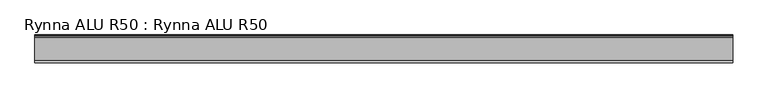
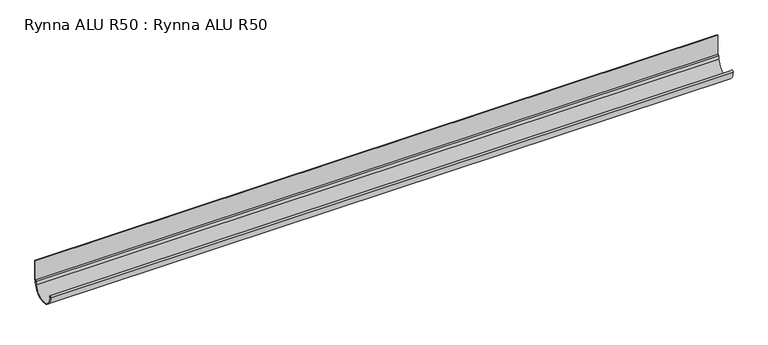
"""IFC4 building model written with IfcOpenShell, lengths in millimetres: proxy geometry, Rynna ALU R50 : Rynna ALU R50."""

from ifc_helpers import new_model, si_unit, point, frame, frame_2d, origin, place, context, project, spatial, polyline, circle_curve, trimmed, segment, composite_curve, outline, extrude, source, transform, mapped, element, save


def rynna_alu_r50_rynna_alu_r50_bfb55408(model_context):
    return source(origin(), model_context, "Body", "SweptSolid", [
        extrude(outline(composite_curve([segment(polyline([(0.6978396, 0.0), (0.6978396, -39.5252625), (-1.8149767, -41.8701356), (-2.328284, -45.5225054), (0.9565767, -44.1281649), (0.1767814, -46.0765907), (-2.6292486, -47.6619658)]), True, "CONTINUOUS"), segment(trimmed(circle_curve(frame_2d((-27.3646611, -44.302303)), 24.9625312), [point((-2.6292486, -47.6619658))], [point((-52.3271923, -44.302303))], False, "CARTESIAN"), True, "CONTINUOUS"), segment(trimmed(circle_curve(frame_2d((-50.3771937, -44.3000011)), 1.95), [point((-52.3271923, -44.302303))], [point((-50.8512717, -46.1914952))], False, "CARTESIAN"), True, "CONTINUOUS"), segment(trimmed(circle_curve(frame_2d((-27.3646611, -44.302303)), 23.5624686), [point((-50.8512717, -46.1914952))], [point((-3.9370468, -46.8196069))], True, "CARTESIAN"), True, "CONTINUOUS"), segment(polyline([(-3.9370468, -46.8196069), (-3.0707013, -41.065916), (-0.7021617, -38.7702547), (-0.7021617, 0.0), (0.6978396, 0.0)]), True, "CONTINUOUS")], self_intersect=False)), frame((-665.8267361, 0.0, 0.0), z_axis=(1.0, 0.0, 0.0), x_axis=(0.0, 1.0, 0.0)), (0.0, 0.0, 1.0), 1331.6534723),
    ])


if __name__ == "__main__":
    model = new_model("IFC4")
    model_context = context("Model", 3, world=origin())
    ifc_project = project(units=[si_unit("LENGTHUNIT", "METRE", prefix="MILLI")], contexts=[model_context])
    site = spatial("IfcSite", under=ifc_project)
    building = spatial("IfcBuilding", under=site)
    placement = place(None, origin())
    rynna_alu_r50_rynna_alu_r50_shape = rynna_alu_r50_rynna_alu_r50_bfb55408(model_context)
    element("IfcBuildingElementProxy", 1, Name="Rynna ALU R50 : Rynna ALU R50", ObjectType="Rynna ALU R50 : Rynna ALU R50", at=placement, inside=building, context=model_context, shape_type="MappedRepresentation", body=[
        mapped(rynna_alu_r50_rynna_alu_r50_shape, transform((0.0, 0.0, 0.0), x_axis=(1.0, 0.0, 0.0), y_axis=(0.0, 1.0, 0.0), z_axis=(0.0, 0.0, 1.0))),
    ])
    save(model, "model.ifc")
